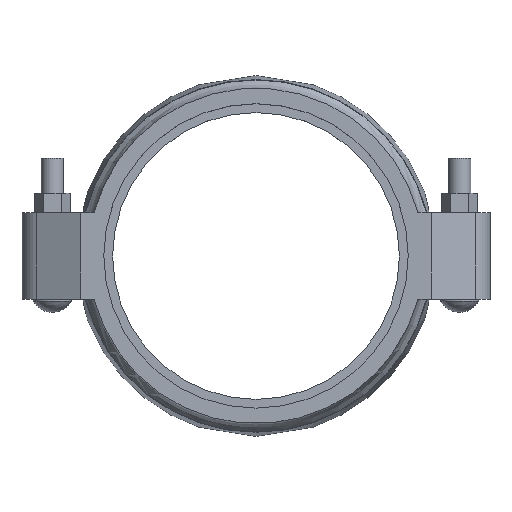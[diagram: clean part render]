
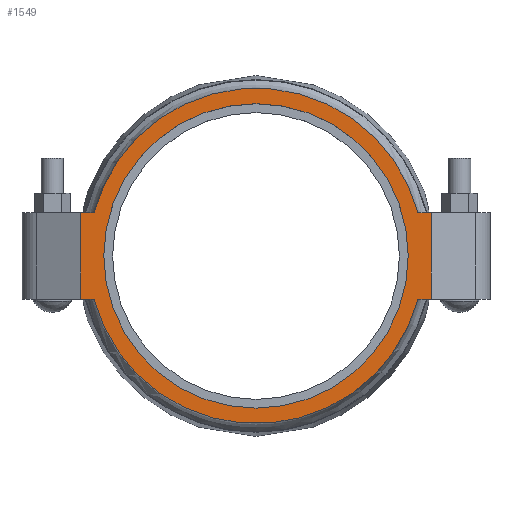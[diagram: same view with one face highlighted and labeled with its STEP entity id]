
A CAD part, top view. The second image highlights one B-rep face of the part: STEP entity #1549.
In plain terms, the highlighted planar face has unit normal (0, 0, 1).
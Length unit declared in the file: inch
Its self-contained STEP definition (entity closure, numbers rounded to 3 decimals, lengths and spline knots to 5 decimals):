
#103=FACE_BOUND('',#301,.T.);
#141=PLANE('',#1695);
#212=FACE_OUTER_BOUND('',#300,.T.);
#300=EDGE_LOOP('',(#1292,#1293,#1294,#1295,#1296,#1297,#1298,#1299));
#301=EDGE_LOOP('',(#1300));
#372=LINE('',#2450,#481);
#384=LINE('',#2567,#493);
#391=LINE('',#2701,#500);
#397=LINE('',#2740,#506);
#406=LINE('',#2803,#515);
#407=LINE('',#2805,#516);
#481=VECTOR('',#1907,0.3937);
#493=VECTOR('',#1939,0.3937);
#500=VECTOR('',#1972,0.3937);
#506=VECTOR('',#1984,0.3937);
#515=VECTOR('',#2007,0.3937);
#516=VECTOR('',#2010,0.3937);
#544=CIRCLE('',#1597,4.3125);
#585=CIRCLE('',#1694,4.75);
#586=CIRCLE('',#1696,4.75);
#610=VERTEX_POINT('',#2182);
#669=VERTEX_POINT('',#2436);
#670=VERTEX_POINT('',#2449);
#692=VERTEX_POINT('',#2564);
#693=VERTEX_POINT('',#2566);
#707=VERTEX_POINT('',#2687);
#708=VERTEX_POINT('',#2700);
#717=VERTEX_POINT('',#2737);
#718=VERTEX_POINT('',#2739);
#754=EDGE_CURVE('',#610,#610,#544,.T.);
#834=EDGE_CURVE('',#669,#670,#372,.T.);
#860=EDGE_CURVE('',#692,#693,#384,.T.);
#883=EDGE_CURVE('',#707,#708,#391,.T.);
#893=EDGE_CURVE('',#717,#718,#397,.T.);
#908=EDGE_CURVE('',#708,#717,#406,.T.);
#909=EDGE_CURVE('',#692,#670,#407,.T.);
#920=EDGE_CURVE('',#718,#669,#585,.T.);
#921=EDGE_CURVE('',#693,#707,#586,.T.);
#1292=ORIENTED_EDGE('',*,*,#921,.F.);
#1293=ORIENTED_EDGE('',*,*,#860,.F.);
#1294=ORIENTED_EDGE('',*,*,#909,.T.);
#1295=ORIENTED_EDGE('',*,*,#834,.F.);
#1296=ORIENTED_EDGE('',*,*,#920,.F.);
#1297=ORIENTED_EDGE('',*,*,#893,.F.);
#1298=ORIENTED_EDGE('',*,*,#908,.F.);
#1299=ORIENTED_EDGE('',*,*,#883,.F.);
#1300=ORIENTED_EDGE('',*,*,#754,.T.);
#1549=ADVANCED_FACE('',(#212,#103),#141,.T.);
#1597=AXIS2_PLACEMENT_3D('',#2184,#1765,#1766);
#1694=AXIS2_PLACEMENT_3D('',#2827,#2048,#2049);
#1695=AXIS2_PLACEMENT_3D('',#2828,#2050,#2051);
#1696=AXIS2_PLACEMENT_3D('',#2829,#2052,#2053);
#1765=DIRECTION('center_axis',(0.,0.,-1.));
#1766=DIRECTION('ref_axis',(1.,0.,0.));
#1907=DIRECTION('',(1.,0.,0.));
#1939=DIRECTION('',(-1.,0.,0.));
#1972=DIRECTION('',(-1.,0.,0.));
#1984=DIRECTION('',(1.,0.,0.));
#2007=DIRECTION('',(0.,1.,0.));
#2010=DIRECTION('',(0.,1.,0.));
#2048=DIRECTION('center_axis',(0.,0.,-1.));
#2049=DIRECTION('ref_axis',(-1.,0.,0.));
#2050=DIRECTION('center_axis',(0.,0.,1.));
#2051=DIRECTION('ref_axis',(-1.,0.,0.));
#2052=DIRECTION('center_axis',(0.,0.,-1.));
#2053=DIRECTION('ref_axis',(-1.,0.,0.));
#2182=CARTESIAN_POINT('',(-4.3125,0.,1.46));
#2184=CARTESIAN_POINT('Origin',(0.,0.,1.46));
#2436=CARTESIAN_POINT('',(4.58932,1.225,1.46));
#2449=CARTESIAN_POINT('',(4.96,1.225,1.46));
#2450=CARTESIAN_POINT('',(-4.96,1.225,1.46));
#2564=CARTESIAN_POINT('',(4.96,-1.225,1.46));
#2566=CARTESIAN_POINT('',(4.58932,-1.225,1.46));
#2567=CARTESIAN_POINT('',(-4.96,-1.225,1.46));
#2687=CARTESIAN_POINT('',(-4.58932,-1.225,1.46));
#2700=CARTESIAN_POINT('',(-4.96,-1.225,1.46));
#2701=CARTESIAN_POINT('',(-4.96,-1.225,1.46));
#2737=CARTESIAN_POINT('',(-4.96,1.225,1.46));
#2739=CARTESIAN_POINT('',(-4.58932,1.225,1.46));
#2740=CARTESIAN_POINT('',(-4.96,1.225,1.46));
#2803=CARTESIAN_POINT('',(-4.96,0.,1.46));
#2805=CARTESIAN_POINT('',(4.96,0.,1.46));
#2827=CARTESIAN_POINT('Origin',(0.,0.,1.46));
#2828=CARTESIAN_POINT('Origin',(0.,-4.75,1.46));
#2829=CARTESIAN_POINT('Origin',(0.,0.,1.46));
